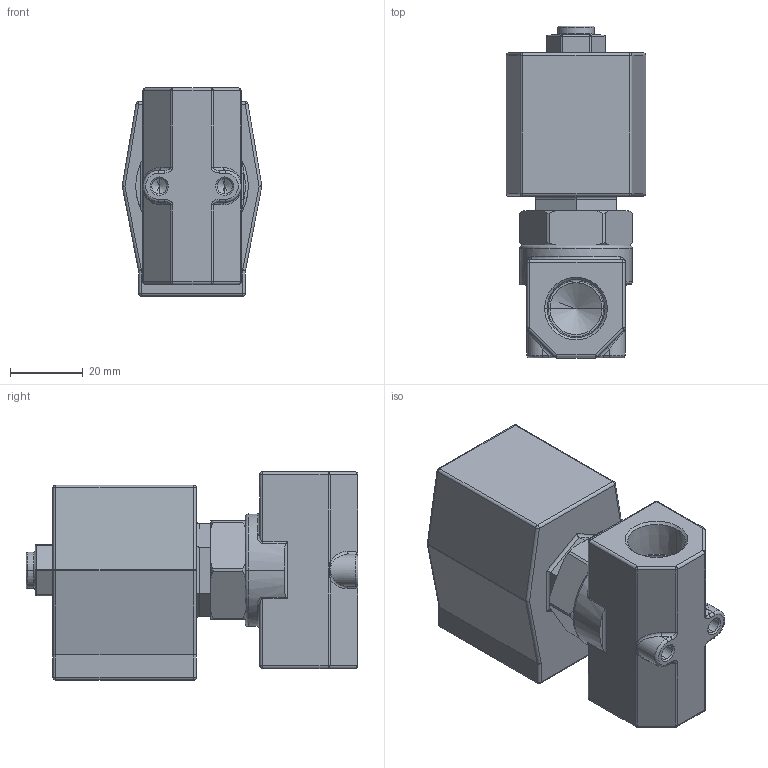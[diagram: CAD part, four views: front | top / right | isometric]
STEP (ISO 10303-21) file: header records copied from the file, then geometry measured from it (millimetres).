
FILE_DESCRIPTION (( 'STEP AP214' ), '1' );
FILE_NAME ('30.126.0 VALVE, SOLENOID, .375 NPT, BRASS.STEP', '2024-10-31T19:23:10', ( '' ), ( '' ), 'SwSTEP 2.0', 'SolidWorks 2024', '' );
FILE_SCHEMA (( 'AUTOMOTIVE_DESIGN' ));
Length unit declared in the file: inch
Products named in the file (1): 30.126.0  VALVE, SOLENOID, .375 NPT, BRASS
Bounding box: 38.33 x 91.06 x 57.16 mm (x, y, z)
Volume: 111561.8 mm3; surface area: 19676.2 mm2
Topology: 1 solids, 1 shells, 259 faces, 613 edges, 334 vertices
Faces by surface type: cylinder 97, plane 57, sphere 31, torus 28, bspline 26, cone 20
Entity records: 12071 total; most frequent: CARTESIAN_POINT 3144, DIRECTION 1163, ORIENTED_EDGE 1156, EDGE_CURVE 578, AXIS2_PLACEMENT_3D 461, VERTEX_POINT 332, EDGE_LOOP 270, DIMENSIONAL_EXPONENTS 261
